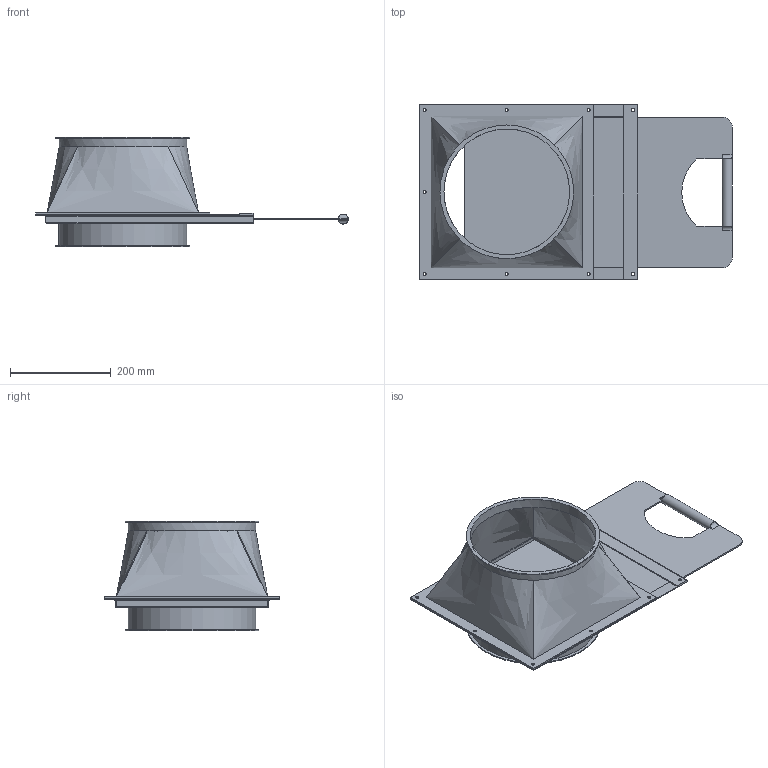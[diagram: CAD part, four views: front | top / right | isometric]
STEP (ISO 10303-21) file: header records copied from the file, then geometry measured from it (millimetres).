
FILE_DESCRIPTION((''),'2;1');
FILE_NAME('U:\Wolfgang\Marcel-3D\fertig\Kapitel 9\2521080.stp','2011-10-11T13:05:59',('iwienholt'),(''),'Autodesk Inventor 2010','Autodesk Inventor 2010','');
FILE_SCHEMA(('AUTOMOTIVE_DESIGN { 1 0 10303 214 1 1 1 1 }'));
Length unit declared in the file: millimetre
Products named in the file (4): 2521080; DN250-1; DN250-2; Schieberplatte DN250
Assembly tree (3 placements, depth 2):
  2521080
    DN250-1
    DN250-2
    Schieberplatte DN250
Bounding box: 619.13 x 345 x 217 mm (x, y, z)
Volume: 1258586.4 mm3; surface area: 1041921.5 mm2
Topology: 3 solids, 3 shells, 103 faces, 288 edges, 192 vertices
Faces by surface type: plane 56, bspline 25, cylinder 22
Full cylindrical faces by diameter (mm): 20 x1, 249 x2, 253 x3, 265 x2
Entity records: 4113 total; most frequent: CARTESIAN_POINT 1515, ORIENTED_EDGE 504, DIRECTION 470, EDGE_CURVE 252, VERTEX_POINT 181, EDGE_LOOP 171, AXIS2_PLACEMENT_3D 162, VECTOR 146
